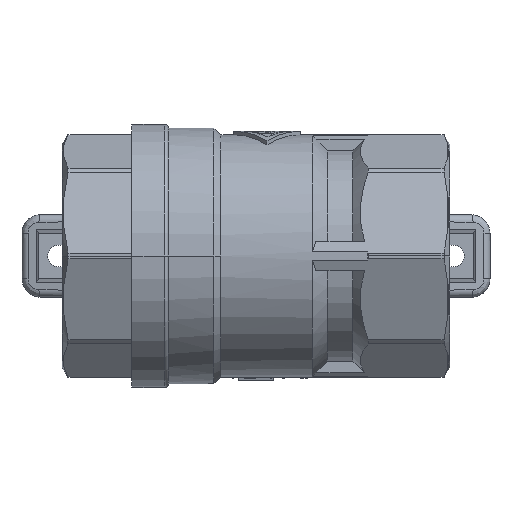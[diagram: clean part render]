
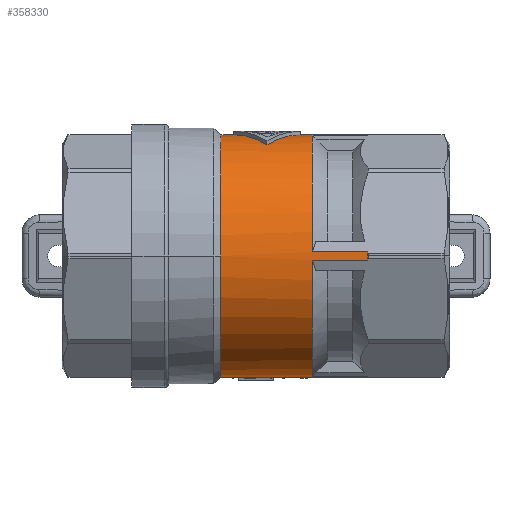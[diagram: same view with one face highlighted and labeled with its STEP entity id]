
A CAD part, front view. The second image highlights one B-rep face of the part: STEP entity #358330.
In plain terms, the highlighted cylindrical face has radius 16.55 mm (diameter 33.1 mm), a partial arc.
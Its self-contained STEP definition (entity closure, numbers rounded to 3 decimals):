
#14900=CARTESIAN_POINT('',(0.,-23.5,
0.));
#14910=DIRECTION('',(0.,-1.,0.));
#14920=DIRECTION('',(0.,0.,-1.));
#14930=AXIS2_PLACEMENT_3D('',#14900,#14910,#14920);
#14940=CYLINDRICAL_SURFACE('',#14930,16.55);
#15900=CARTESIAN_POINT('',(0.,-28.805,
0.));
#15910=DIRECTION('',(0.,-1.,0.));
#15920=DIRECTION('',(1.,0.,0.));
#15930=AXIS2_PLACEMENT_3D('',#15900,#15910,#15920);
#15940=CIRCLE('',#15930,16.55);
#15950=CARTESIAN_POINT('',(0.,-28.805,16.55)
);
#15960=VERTEX_POINT('',#15950);
#15990=CARTESIAN_POINT('',(0.,-23.5,16.55));
#16000=DIRECTION('',(0.,-1.,0.));
#16010=VECTOR('',#16000,1.);
#16020=LINE('',#15990,#16010);
#16030=CARTESIAN_POINT('',(0.,-19.551,16.55)
);
#16040=VERTEX_POINT('',#16030);
#16050=EDGE_CURVE('',#16040,#15960,#16020,.T.);
#16210=CARTESIAN_POINT('',(0.,-10.449,16.55)
);
#16220=VERTEX_POINT('',#16210);
#16250=CARTESIAN_POINT('',(0.,-8.705,16.55)
);
#16260=VERTEX_POINT('',#16250);
#16270=EDGE_CURVE('',#16260,#16220,#16020,.T.);
#16290=CARTESIAN_POINT('',(0.,-8.705,
0.));
#16300=DIRECTION('',(0.,1.,0.));
#16310=DIRECTION('',(-1.,0.,-0.));
#16320=AXIS2_PLACEMENT_3D('',#16290,#16300,#16310);
#16330=CIRCLE('',#16320,16.55);
#61650=CARTESIAN_POINT('',(-6.5,-15.,15.22));
#61660=VERTEX_POINT('',#61650);
#61690=CARTESIAN_POINT('',(0.,-10.449,
0.));
#61700=DIRECTION('',(-0.574,0.819,
0.));
#61710=DIRECTION('',(0.819,0.574,
0.));
#61720=AXIS2_PLACEMENT_3D('',#61690,#61700,#61710);
#61730=ELLIPSE('',#61720,20.204,16.55);
#61740=EDGE_CURVE('',#61660,#16220,#61730,.T.);
#61870=CARTESIAN_POINT('',(0.,-19.551,
0.));
#61880=DIRECTION('',(-0.574,-0.819,
0.));
#61890=DIRECTION('',(-0.819,0.574,
0.));
#61900=AXIS2_PLACEMENT_3D('',#61870,#61880,#61890);
#61910=ELLIPSE('',#61900,20.204,16.55);
#61920=EDGE_CURVE('',#16040,#61660,#61910,.T.);
#129440=CARTESIAN_POINT('',(-16.55,-8.705,
0.));
#129450=VERTEX_POINT('',#129440);
#129460=EDGE_CURVE('',#129450,#16260,#16330,.T.);
#308160=CARTESIAN_POINT('',(-0.572,-28.805,
16.54));
#308170=VERTEX_POINT('',#308160);
#308200=EDGE_CURVE('',#15960,#308170,#15940,.T.);
#310500=CARTESIAN_POINT('',(-0.572,-21.205,
16.54));
#310510=VERTEX_POINT('',#310500);
#310540=CARTESIAN_POINT('',(-0.572,-23.5,16.54));
#310550=DIRECTION('',(0.,-1.,0.));
#310560=VECTOR('',#310550,1.);
#310570=LINE('',#310540,#310560);
#310580=EDGE_CURVE('',#310510,#308170,#310570,.T.);
#311610=CARTESIAN_POINT('',(-16.54,-23.5,0.572));
#311620=DIRECTION('',(0.,-1.,0.));
#311630=VECTOR('',#311620,1.);
#311640=LINE('',#311610,#311630);
#311650=CARTESIAN_POINT('',(-16.54,-21.205,
0.572));
#311660=VERTEX_POINT('',#311650);
#311670=CARTESIAN_POINT('',(-16.54,-28.805,
0.572));
#311680=VERTEX_POINT('',#311670);
#311690=EDGE_CURVE('',#311660,#311680,#311640,.T.);
#314750=CARTESIAN_POINT('',(-16.54,-28.805,
-0.572));
#314760=VERTEX_POINT('',#314750);
#316390=CARTESIAN_POINT('',(-16.54,-21.205,
-0.572));
#316400=VERTEX_POINT('',#316390);
#316430=CARTESIAN_POINT('',(-16.54,-23.5,-0.572))
;
#316440=DIRECTION('',(0.,-1.,0.));
#316450=VECTOR('',#316440,1.);
#316460=LINE('',#316430,#316450);
#316470=EDGE_CURVE('',#316400,#314760,#316460,.T.);
#317150=CARTESIAN_POINT('',(-0.572,-23.5,-16.54))
;
#317160=DIRECTION('',(0.,-1.,0.));
#317170=VECTOR('',#317160,1.);
#317180=LINE('',#317150,#317170);
#317190=CARTESIAN_POINT('',(-0.572,-21.205,
-16.54));
#317200=VERTEX_POINT('',#317190);
#317210=CARTESIAN_POINT('',(-0.572,-28.805,
-16.54));
#317220=VERTEX_POINT('',#317210);
#317230=EDGE_CURVE('',#317200,#317220,#317180,.T.);
#319850=CARTESIAN_POINT('',(0.,-21.205,
0.));
#319860=DIRECTION('',(0.,1.,0.));
#319870=DIRECTION('',(-1.,0.,-0.));
#319880=AXIS2_PLACEMENT_3D('',#319850,#319860,#319870);
#319890=CIRCLE('',#319880,16.55);
#319900=EDGE_CURVE('',#317200,#316400,#319890,.T.);
#321190=CARTESIAN_POINT('',(0.,-21.205,
0.));
#321200=DIRECTION('',(0.,1.,0.));
#321210=DIRECTION('',(-1.,0.,-0.));
#321220=AXIS2_PLACEMENT_3D('',#321190,#321200,#321210);
#321230=CIRCLE('',#321220,16.55);
#321240=EDGE_CURVE('',#311660,#310510,#321230,.T.);
#322180=CARTESIAN_POINT('',(0.,-28.805,
0.));
#322190=DIRECTION('',(0.,-1.,0.));
#322200=DIRECTION('',(1.,0.,0.));
#322210=AXIS2_PLACEMENT_3D('',#322180,#322190,#322200);
#322220=CIRCLE('',#322210,16.55);
#322230=CARTESIAN_POINT('',(-16.55,-28.805,
0.));
#322240=VERTEX_POINT('',#322230);
#322250=EDGE_CURVE('',#322240,#314760,#322220,.T.);
#334370=CARTESIAN_POINT('',(0.,-28.805,
0.));
#334380=DIRECTION('',(0.,-1.,0.));
#334390=DIRECTION('',(1.,0.,0.));
#334400=AXIS2_PLACEMENT_3D('',#334370,#334380,#334390);
#334410=CIRCLE('',#334400,16.55);
#334420=CARTESIAN_POINT('',(0.,-28.805,
-16.55));
#334430=VERTEX_POINT('',#334420);
#334440=EDGE_CURVE('',#317220,#334430,#334410,.T.);
#344300=EDGE_CURVE('',#311680,#322240,#322220,.T.);
#358060=ORIENTED_EDGE('',*,*,#16050,.F.);
#358070=ORIENTED_EDGE('',*,*,#308200,.F.);
#358080=ORIENTED_EDGE('',*,*,#310580,.T.);
#358090=ORIENTED_EDGE('',*,*,#321240,.T.);
#358100=ORIENTED_EDGE('',*,*,#311690,.F.);
#358110=ORIENTED_EDGE('',*,*,#344300,.F.);
#358120=ORIENTED_EDGE('',*,*,#322250,.F.);
#358130=ORIENTED_EDGE('',*,*,#316470,.T.);
#358140=ORIENTED_EDGE('',*,*,#319900,.T.);
#358150=ORIENTED_EDGE('',*,*,#317230,.F.);
#358160=ORIENTED_EDGE('',*,*,#334440,.F.);
#358170=CARTESIAN_POINT('',(0.,-23.5,-16.55));
#358180=DIRECTION('',(0.,-1.,0.));
#358190=VECTOR('',#358180,1.);
#358200=LINE('',#358170,#358190);
#358210=CARTESIAN_POINT('',(0.,-8.705,
-16.55));
#358220=VERTEX_POINT('',#358210);
#358230=EDGE_CURVE('',#358220,#334430,#358200,.T.);
#358240=ORIENTED_EDGE('',*,*,#358230,.T.);
#358250=EDGE_CURVE('',#358220,#129450,#16330,.T.);
#358260=ORIENTED_EDGE('',*,*,#358250,.F.);
#358270=ORIENTED_EDGE('',*,*,#129460,.F.);
#358280=ORIENTED_EDGE('',*,*,#16270,.F.);
#358290=ORIENTED_EDGE('',*,*,#61740,.T.);
#358300=ORIENTED_EDGE('',*,*,#61920,.T.);
#358310=EDGE_LOOP('',(#358300,#358290,#358280,#358270,#358260,#358240,
#358160,#358150,#358140,#358130,#358120,#358110,#358100,#358090,#358080,
#358070,#358060));
#358320=FACE_OUTER_BOUND('',#358310,.T.);
#358330=ADVANCED_FACE('',(#358320),#14940,.T.);
